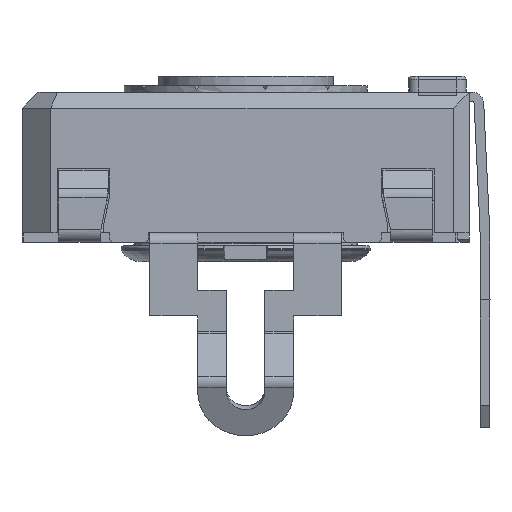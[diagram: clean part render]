
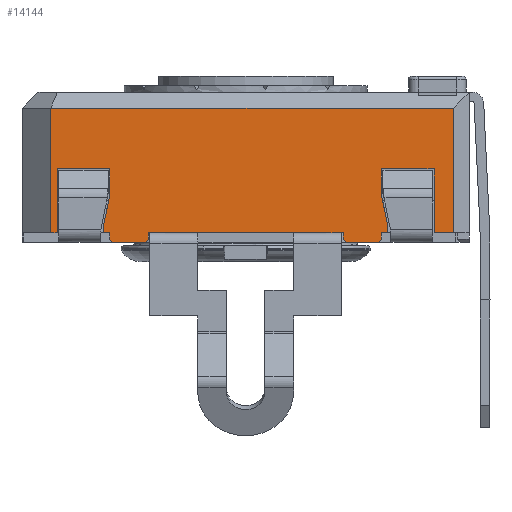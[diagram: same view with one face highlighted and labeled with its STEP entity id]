
A CAD part, left-side view. The second image highlights one B-rep face of the part: STEP entity #14144.
In plain terms, the highlighted planar face has unit normal (-1, 0, 0).
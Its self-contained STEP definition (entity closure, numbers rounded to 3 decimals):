
#765=FACE_OUTER_BOUND('',#1497,.T.);
#1497=EDGE_LOOP('',(#11369,#11370,#11371,#11372,#11373,#11374,#11375,#11376,
#11377,#11378,#11379,#11380,#11381,#11382,#11383,#11384,#11385,#11386,#11387,
#11388,#11389,#11390,#11391,#11392,#11393,#11394,#11395,#11396));
#2322=LINE('',#19855,#3931);
#2327=LINE('',#19865,#3936);
#2332=LINE('',#19875,#3941);
#2445=LINE('',#20127,#4054);
#3032=LINE('',#21892,#4641);
#3037=LINE('',#21901,#4646);
#3040=LINE('',#21907,#4649);
#3044=LINE('',#21914,#4653);
#3068=LINE('',#21962,#4677);
#3071=LINE('',#21968,#4680);
#3076=LINE('',#21978,#4685);
#3079=LINE('',#21984,#4688);
#3082=LINE('',#21990,#4691);
#3100=LINE('',#22025,#4709);
#3112=LINE('',#22047,#4721);
#3115=LINE('',#22053,#4724);
#3150=LINE('',#22181,#4759);
#3153=LINE('',#22187,#4762);
#3158=LINE('',#22197,#4767);
#3160=LINE('',#22200,#4769);
#3279=LINE('',#22499,#4888);
#3281=LINE('',#22504,#4890);
#3284=LINE('',#22508,#4893);
#3286=LINE('',#22512,#4895);
#3289=LINE('',#22520,#4898);
#3290=LINE('',#22522,#4899);
#3291=LINE('',#22523,#4900);
#3292=LINE('',#22524,#4901);
#3931=VECTOR('',#15921,10.);
#3936=VECTOR('',#15926,10.);
#3941=VECTOR('',#15931,10.);
#4054=VECTOR('',#16148,10.);
#4641=VECTOR('',#17557,10.);
#4646=VECTOR('',#17564,10.);
#4649=VECTOR('',#17569,10.);
#4653=VECTOR('',#17575,10.);
#4677=VECTOR('',#17619,10.);
#4680=VECTOR('',#17624,10.);
#4685=VECTOR('',#17631,10.);
#4688=VECTOR('',#17636,10.);
#4691=VECTOR('',#17641,10.);
#4709=VECTOR('',#17661,10.);
#4721=VECTOR('',#17675,10.);
#4724=VECTOR('',#17680,10.);
#4759=VECTOR('',#17759,10.);
#4762=VECTOR('',#17764,10.);
#4767=VECTOR('',#17771,10.);
#4769=VECTOR('',#17775,10.);
#4888=VECTOR('',#18048,10.);
#4890=VECTOR('',#18052,10.);
#4893=VECTOR('',#18057,10.);
#4895=VECTOR('',#18063,10.);
#4898=VECTOR('',#18074,10.);
#4899=VECTOR('',#18075,10.);
#4900=VECTOR('',#18076,10.);
#4901=VECTOR('',#18077,10.);
#5526=VERTEX_POINT('',#19852);
#5527=VERTEX_POINT('',#19854);
#5531=VERTEX_POINT('',#19862);
#5532=VERTEX_POINT('',#19864);
#5536=VERTEX_POINT('',#19872);
#5537=VERTEX_POINT('',#19874);
#5623=VERTEX_POINT('',#20124);
#5624=VERTEX_POINT('',#20126);
#6138=VERTEX_POINT('',#21889);
#6139=VERTEX_POINT('',#21891);
#6143=VERTEX_POINT('',#21904);
#6146=VERTEX_POINT('',#21912);
#6159=VERTEX_POINT('',#21959);
#6161=VERTEX_POINT('',#21965);
#6165=VERTEX_POINT('',#21975);
#6167=VERTEX_POINT('',#21981);
#6170=VERTEX_POINT('',#21988);
#6186=VERTEX_POINT('',#22023);
#6195=VERTEX_POINT('',#22045);
#6197=VERTEX_POINT('',#22051);
#6221=VERTEX_POINT('',#22184);
#6225=VERTEX_POINT('',#22194);
#6299=VERTEX_POINT('',#22496);
#6300=VERTEX_POINT('',#22498);
#6301=VERTEX_POINT('',#22502);
#6302=VERTEX_POINT('',#22503);
#6303=VERTEX_POINT('',#22519);
#6304=VERTEX_POINT('',#22521);
#6909=EDGE_CURVE('',#5527,#5526,#2322,.T.);
#6914=EDGE_CURVE('',#5532,#5531,#2327,.T.);
#6919=EDGE_CURVE('',#5537,#5536,#2332,.T.);
#7047=EDGE_CURVE('',#5624,#5623,#2445,.T.);
#7826=EDGE_CURVE('',#6139,#6138,#3032,.T.);
#7831=EDGE_CURVE('',#6138,#5537,#3037,.T.);
#7834=EDGE_CURVE('',#5536,#6143,#3040,.T.);
#7838=EDGE_CURVE('',#6146,#6143,#3044,.T.);
#7863=EDGE_CURVE('',#5526,#6159,#3068,.T.);
#7866=EDGE_CURVE('',#6159,#6161,#3071,.T.);
#7871=EDGE_CURVE('',#6161,#6165,#3076,.T.);
#7874=EDGE_CURVE('',#6165,#6167,#3079,.T.);
#7877=EDGE_CURVE('',#6167,#6170,#3082,.T.);
#7895=EDGE_CURVE('',#6170,#6186,#3100,.T.);
#7907=EDGE_CURVE('',#6195,#6186,#3112,.T.);
#7910=EDGE_CURVE('',#6197,#6195,#3115,.T.);
#7957=EDGE_CURVE('',#5624,#6197,#3150,.T.);
#7960=EDGE_CURVE('',#5623,#6221,#3153,.T.);
#7965=EDGE_CURVE('',#6221,#6225,#3158,.T.);
#7967=EDGE_CURVE('',#6225,#6139,#3160,.T.);
#8102=EDGE_CURVE('',#6299,#6300,#3279,.T.);
#8104=EDGE_CURVE('',#6301,#6302,#3281,.T.);
#8107=EDGE_CURVE('',#5527,#6299,#3284,.T.);
#8109=EDGE_CURVE('',#5531,#6302,#3286,.T.);
#8112=EDGE_CURVE('',#6146,#6303,#3289,.T.);
#8113=EDGE_CURVE('',#6304,#6303,#3290,.T.);
#8114=EDGE_CURVE('',#5532,#6304,#3291,.T.);
#8115=EDGE_CURVE('',#6301,#6300,#3292,.T.);
#11369=ORIENTED_EDGE('',*,*,#7831,.T.);
#11370=ORIENTED_EDGE('',*,*,#6919,.T.);
#11371=ORIENTED_EDGE('',*,*,#7834,.T.);
#11372=ORIENTED_EDGE('',*,*,#7838,.F.);
#11373=ORIENTED_EDGE('',*,*,#8112,.T.);
#11374=ORIENTED_EDGE('',*,*,#8113,.F.);
#11375=ORIENTED_EDGE('',*,*,#8114,.F.);
#11376=ORIENTED_EDGE('',*,*,#6914,.T.);
#11377=ORIENTED_EDGE('',*,*,#8109,.T.);
#11378=ORIENTED_EDGE('',*,*,#8104,.F.);
#11379=ORIENTED_EDGE('',*,*,#8115,.T.);
#11380=ORIENTED_EDGE('',*,*,#8102,.F.);
#11381=ORIENTED_EDGE('',*,*,#8107,.F.);
#11382=ORIENTED_EDGE('',*,*,#6909,.T.);
#11383=ORIENTED_EDGE('',*,*,#7863,.T.);
#11384=ORIENTED_EDGE('',*,*,#7866,.T.);
#11385=ORIENTED_EDGE('',*,*,#7871,.T.);
#11386=ORIENTED_EDGE('',*,*,#7874,.T.);
#11387=ORIENTED_EDGE('',*,*,#7877,.T.);
#11388=ORIENTED_EDGE('',*,*,#7895,.T.);
#11389=ORIENTED_EDGE('',*,*,#7907,.F.);
#11390=ORIENTED_EDGE('',*,*,#7910,.F.);
#11391=ORIENTED_EDGE('',*,*,#7957,.F.);
#11392=ORIENTED_EDGE('',*,*,#7047,.T.);
#11393=ORIENTED_EDGE('',*,*,#7960,.T.);
#11394=ORIENTED_EDGE('',*,*,#7965,.T.);
#11395=ORIENTED_EDGE('',*,*,#7967,.T.);
#11396=ORIENTED_EDGE('',*,*,#7826,.T.);
#13221=PLANE('',#15119);
#14144=ADVANCED_FACE('',(#765),#13221,.T.);
#15119=AXIS2_PLACEMENT_3D('',#22518,#18072,#18073);
#15921=DIRECTION('',(0.,-1.,0.));
#15926=DIRECTION('',(0.,-1.,0.));
#15931=DIRECTION('',(0.,-1.,0.));
#16148=DIRECTION('',(0.,-1.,0.));
#17557=DIRECTION('',(0.,0.208,-0.978));
#17564=DIRECTION('',(0.,0.,-1.));
#17569=DIRECTION('',(0.,0.,-1.));
#17575=DIRECTION('',(0.,0.707,0.707));
#17619=DIRECTION('',(0.,0.,1.));
#17624=DIRECTION('',(0.,0.208,0.978));
#17631=DIRECTION('',(0.,0.,1.));
#17636=DIRECTION('',(0.,-1.,0.));
#17641=DIRECTION('',(0.,0.,-1.));
#17661=DIRECTION('',(0.,-1.,0.));
#17675=DIRECTION('',(0.,0.,-1.));
#17680=DIRECTION('',(0.,-1.,0.));
#17759=DIRECTION('',(0.,0.,1.));
#17764=DIRECTION('',(0.,0.,1.));
#17771=DIRECTION('',(0.,-1.,0.));
#17775=DIRECTION('',(0.,0.,-1.));
#18048=DIRECTION('',(0.,0.707,-0.707));
#18052=DIRECTION('',(0.,0.707,0.707));
#18057=DIRECTION('',(0.,0.,-1.));
#18063=DIRECTION('',(0.,0.,-1.));
#18072=DIRECTION('center_axis',(-1.,0.,0.));
#18073=DIRECTION('ref_axis',(0.,0.,1.));
#18074=DIRECTION('',(0.,-1.,0.));
#18075=DIRECTION('',(0.,0.707,-0.707));
#18076=DIRECTION('',(0.,0.,-1.));
#18077=DIRECTION('',(0.,-1.,0.));
#19852=CARTESIAN_POINT('',(-14.467,-7.348,0.));
#19854=CARTESIAN_POINT('',(-14.467,-7.148,0.));
#19855=CARTESIAN_POINT('',(-14.467,4.102,0.));
#19862=CARTESIAN_POINT('',(-14.467,-5.948,0.));
#19864=CARTESIAN_POINT('',(-14.467,0.152,0.));
#19865=CARTESIAN_POINT('',(-14.467,4.102,0.));
#19872=CARTESIAN_POINT('',(-14.467,1.352,0.));
#19874=CARTESIAN_POINT('',(-14.467,1.552,0.));
#19875=CARTESIAN_POINT('',(-14.467,4.102,0.));
#20124=CARTESIAN_POINT('',(-14.467,3.002,0.));
#20126=CARTESIAN_POINT('',(-14.467,3.202,0.));
#20127=CARTESIAN_POINT('',(-14.467,-2.985,0.));
#21889=CARTESIAN_POINT('',(-14.467,1.552,0.235));
#21891=CARTESIAN_POINT('',(-14.467,1.352,1.176));
#21892=CARTESIAN_POINT('',(-14.467,1.228,1.757));
#21901=CARTESIAN_POINT('',(-14.467,1.552,0.));
#21904=CARTESIAN_POINT('',(-14.467,1.352,-0.2));
#21907=CARTESIAN_POINT('',(-14.467,1.352,0.));
#21912=CARTESIAN_POINT('',(-14.467,1.252,-0.3));
#21914=CARTESIAN_POINT('',(-14.467,-1.436,-2.988));
#21959=CARTESIAN_POINT('',(-14.467,-7.348,0.235));
#21962=CARTESIAN_POINT('',(-14.467,-7.348,0.118));
#21965=CARTESIAN_POINT('',(-14.467,-7.148,1.176));
#21968=CARTESIAN_POINT('',(-14.467,-7.453,-0.254));
#21975=CARTESIAN_POINT('',(-14.467,-7.148,2.));
#21978=CARTESIAN_POINT('',(-14.467,-7.148,0.588));
#21981=CARTESIAN_POINT('',(-14.467,-8.798,2.));
#21984=CARTESIAN_POINT('',(-14.467,-8.523,2.));
#21988=CARTESIAN_POINT('',(-14.467,-8.798,0.));
#21990=CARTESIAN_POINT('',(-14.467,-8.798,0.));
#22023=CARTESIAN_POINT('',(-14.467,-9.398,0.));
#22025=CARTESIAN_POINT('',(-14.467,-9.595,0.));
#22045=CARTESIAN_POINT('',(-14.467,-9.398,3.9));
#22047=CARTESIAN_POINT('',(-14.467,-9.398,0.));
#22051=CARTESIAN_POINT('',(-14.467,3.202,3.9));
#22053=CARTESIAN_POINT('',(-14.467,-6.398,3.9));
#22181=CARTESIAN_POINT('',(-14.467,3.202,0.));
#22184=CARTESIAN_POINT('',(-14.467,3.002,2.));
#22187=CARTESIAN_POINT('',(-14.467,3.002,0.));
#22194=CARTESIAN_POINT('',(-14.467,1.352,2.));
#22197=CARTESIAN_POINT('',(-14.467,-3.448,2.));
#22200=CARTESIAN_POINT('',(-14.467,1.352,1.));
#22496=CARTESIAN_POINT('',(-14.467,-7.148,-0.2));
#22498=CARTESIAN_POINT('',(-14.467,-7.048,-0.3));
#22499=CARTESIAN_POINT('',(-14.467,-7.861,0.513));
#22502=CARTESIAN_POINT('',(-14.467,-6.048,-0.3));
#22503=CARTESIAN_POINT('',(-14.467,-5.948,-0.2));
#22504=CARTESIAN_POINT('',(-14.467,-6.911,-1.163));
#22508=CARTESIAN_POINT('',(-14.467,-7.148,0.));
#22512=CARTESIAN_POINT('',(-14.467,-5.948,0.));
#22518=CARTESIAN_POINT('Origin',(-14.467,-9.898,0.));
#22519=CARTESIAN_POINT('',(-14.467,0.252,-0.3));
#22520=CARTESIAN_POINT('',(-14.467,0.152,-0.3));
#22521=CARTESIAN_POINT('',(-14.467,0.152,-0.2));
#22522=CARTESIAN_POINT('',(-14.467,-2.386,2.338));
#22523=CARTESIAN_POINT('',(-14.467,0.152,0.));
#22524=CARTESIAN_POINT('',(-14.467,-7.148,-0.3));
